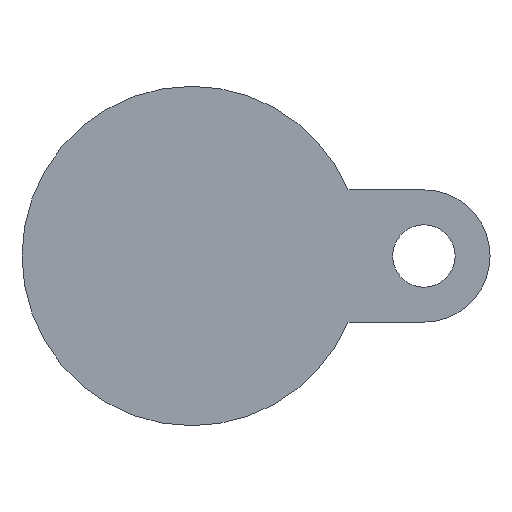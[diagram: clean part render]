
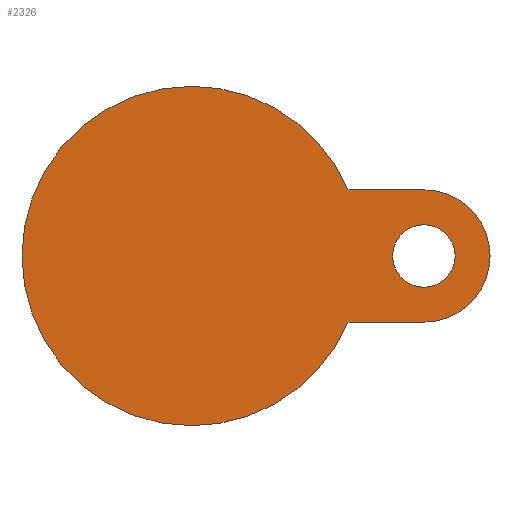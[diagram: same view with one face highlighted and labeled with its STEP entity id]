
A CAD part, front view. The second image highlights one B-rep face of the part: STEP entity #2326.
In plain terms, the highlighted planar face has unit normal (0, -1, 0).
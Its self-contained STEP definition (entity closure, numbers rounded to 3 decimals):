
#42 = LINE ( 'NONE', #3333, #205 ) ;
#88 = EDGE_CURVE ( 'NONE', #222, #4152, #42, .T. ) ;
#142 = EDGE_LOOP ( 'NONE', ( #3893, #4352, #1192, #5048, #1249, #1820 ) ) ;
#175 = AXIS2_PLACEMENT_3D ( 'NONE', #4473, #4050, #2717 ) ;
#205 = VECTOR ( 'NONE', #3722, 1000. ) ;
#222 = VERTEX_POINT ( 'NONE', #4611 ) ;
#497 = EDGE_CURVE ( 'NONE', #5325, #5377, #3981, .T. ) ;
#651 = VERTEX_POINT ( 'NONE', #3184 ) ;
#733 = DIRECTION ( 'NONE',  ( 0., 0., -1. ) ) ;
#885 = CIRCLE ( 'NONE', #2902, 47.5 ) ;
#914 = ORIENTED_EDGE ( 'NONE', *, *, #497, .F. ) ;
#1033 = LINE ( 'NONE', #2825, #2546 ) ;
#1081 = DIRECTION ( 'NONE',  ( 0., 0., 1. ) ) ;
#1192 = ORIENTED_EDGE ( 'NONE', *, *, #3730, .F. ) ;
#1225 = DIRECTION ( 'NONE',  ( 0., 0., -1. ) ) ;
#1249 = ORIENTED_EDGE ( 'NONE', *, *, #88, .T. ) ;
#1257 = CARTESIAN_POINT ( 'NONE',  ( 0., -22., -47.5 ) ) ;
#1403 = AXIS2_PLACEMENT_3D ( 'NONE', #5119, #2567, #733 ) ;
#1455 = CARTESIAN_POINT ( 'NONE',  ( 0., -22., 0. ) ) ;
#1676 = PLANE ( 'NONE',  #2427 ) ;
#1820 = ORIENTED_EDGE ( 'NONE', *, *, #5026, .T. ) ;
#1937 = AXIS2_PLACEMENT_3D ( 'NONE', #3795, #3280, #4213 ) ;
#1991 = DIRECTION ( 'NONE',  ( -1., 0., 0. ) ) ;
#2024 = DIRECTION ( 'NONE',  ( 0., -1., 0. ) ) ;
#2090 = FACE_OUTER_BOUND ( 'NONE', #142, .T. ) ;
#2192 = CARTESIAN_POINT ( 'NONE',  ( 65., -22., 0. ) ) ;
#2326 = ADVANCED_FACE ( 'NONE', ( #2090, #3775 ), #1676, .T. ) ;
#2427 = AXIS2_PLACEMENT_3D ( 'NONE', #3367, #3419, #4698 ) ;
#2490 = VERTEX_POINT ( 'NONE', #1257 ) ;
#2538 = VERTEX_POINT ( 'NONE', #4187 ) ;
#2546 = VECTOR ( 'NONE', #1991, 1000. ) ;
#2567 = DIRECTION ( 'NONE',  ( 0., -1., 0. ) ) ;
#2604 = EDGE_LOOP ( 'NONE', ( #4982, #914 ) ) ;
#2717 = DIRECTION ( 'NONE',  ( 0., 0., 1. ) ) ;
#2725 = DIRECTION ( 'NONE',  ( 0., 1., 0. ) ) ;
#2760 = EDGE_CURVE ( 'NONE', #5377, #5325, #4139, .T. ) ;
#2822 = AXIS2_PLACEMENT_3D ( 'NONE', #2192, #4826, #3080 ) ;
#2825 = CARTESIAN_POINT ( 'NONE',  ( 28.666, -22., 18.5 ) ) ;
#2854 = CARTESIAN_POINT ( 'NONE',  ( 43.749, -22., 18.5 ) ) ;
#2902 = AXIS2_PLACEMENT_3D ( 'NONE', #1455, #2725, #1081 ) ;
#3080 = DIRECTION ( 'NONE',  ( 0., 0., -1. ) ) ;
#3083 = CIRCLE ( 'NONE', #2822, 18.5 ) ;
#3184 = CARTESIAN_POINT ( 'NONE',  ( 0., -22., 47.5 ) ) ;
#3280 = DIRECTION ( 'NONE',  ( 0., 1., 0. ) ) ;
#3333 = CARTESIAN_POINT ( 'NONE',  ( 65., -22., -18.5 ) ) ;
#3367 = CARTESIAN_POINT ( 'NONE',  ( 0., -22., 0. ) ) ;
#3377 = CARTESIAN_POINT ( 'NONE',  ( 65., -22., 8.75 ) ) ;
#3380 = EDGE_CURVE ( 'NONE', #222, #2490, #885, .T. ) ;
#3419 = DIRECTION ( 'NONE',  ( 0., -1., 0. ) ) ;
#3503 = EDGE_CURVE ( 'NONE', #651, #4238, #4855, .T. ) ;
#3722 = DIRECTION ( 'NONE',  ( 1., 0., 0. ) ) ;
#3730 = EDGE_CURVE ( 'NONE', #2490, #651, #3783, .T. ) ;
#3775 = FACE_BOUND ( 'NONE', #2604, .T. ) ;
#3783 = CIRCLE ( 'NONE', #175, 47.5 ) ;
#3795 = CARTESIAN_POINT ( 'NONE',  ( 0., -22., 0. ) ) ;
#3893 = ORIENTED_EDGE ( 'NONE', *, *, #5445, .T. ) ;
#3981 = CIRCLE ( 'NONE', #4693, 8.75 ) ;
#4022 = CARTESIAN_POINT ( 'NONE',  ( 65., -22., -18.5 ) ) ;
#4050 = DIRECTION ( 'NONE',  ( 0., 1., 0. ) ) ;
#4139 = CIRCLE ( 'NONE', #1403, 8.75 ) ;
#4152 = VERTEX_POINT ( 'NONE', #4022 ) ;
#4187 = CARTESIAN_POINT ( 'NONE',  ( 65., -22., 18.5 ) ) ;
#4213 = DIRECTION ( 'NONE',  ( 0., 0., 1. ) ) ;
#4238 = VERTEX_POINT ( 'NONE', #2854 ) ;
#4262 = CARTESIAN_POINT ( 'NONE',  ( 65., -22., -8.75 ) ) ;
#4352 = ORIENTED_EDGE ( 'NONE', *, *, #3503, .F. ) ;
#4473 = CARTESIAN_POINT ( 'NONE',  ( 0., -22., 0. ) ) ;
#4611 = CARTESIAN_POINT ( 'NONE',  ( 43.749, -22., -18.5 ) ) ;
#4693 = AXIS2_PLACEMENT_3D ( 'NONE', #5066, #2024, #1225 ) ;
#4698 = DIRECTION ( 'NONE',  ( 0., 0., -1. ) ) ;
#4826 = DIRECTION ( 'NONE',  ( 0., -1., 0. ) ) ;
#4855 = CIRCLE ( 'NONE', #1937, 47.5 ) ;
#4982 = ORIENTED_EDGE ( 'NONE', *, *, #2760, .F. ) ;
#5026 = EDGE_CURVE ( 'NONE', #4152, #2538, #3083, .T. ) ;
#5048 = ORIENTED_EDGE ( 'NONE', *, *, #3380, .F. ) ;
#5066 = CARTESIAN_POINT ( 'NONE',  ( 65., -22., 0. ) ) ;
#5119 = CARTESIAN_POINT ( 'NONE',  ( 65., -22., 0. ) ) ;
#5325 = VERTEX_POINT ( 'NONE', #3377 ) ;
#5377 = VERTEX_POINT ( 'NONE', #4262 ) ;
#5445 = EDGE_CURVE ( 'NONE', #2538, #4238, #1033, .T. ) ;
